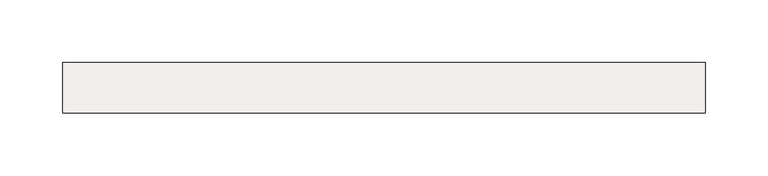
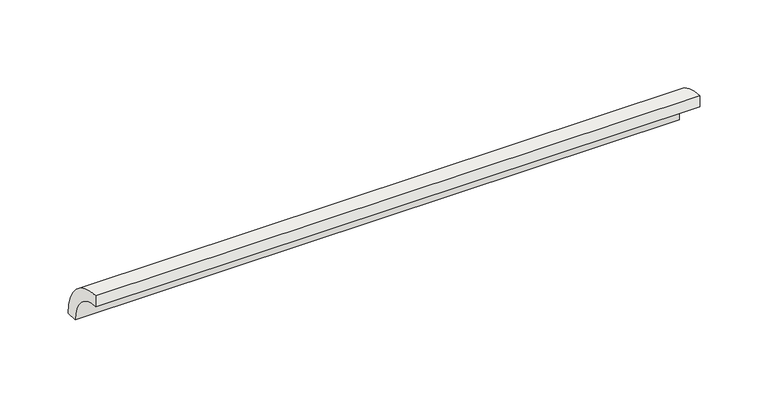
"""IFC4 building model written with IfcOpenShell, lengths in millimetres: slab geometry, ROSA GRES_183 : Pieza 183_Tresor_Java_Anti-Slip."""

from ifc_helpers import new_model, si_unit, point, frame, frame_2d, origin, origin_2d, place, context, project, spatial, polyline, circle_curve, trimmed, segment, composite_curve, outline, extrude, source, transform, mapped, element, save


def slab_8b9676be(model_context):
    return source(origin(), model_context, "Body", "SweptSolid", [
        extrude(outline(composite_curve([segment(trimmed(circle_curve(origin_2d(), 40.0), [point((0.0, 40.0))], [point((40.0, 0.0))], False, "CARTESIAN"), True, "CONTINUOUS"), segment(polyline([(40.0, 0.0), (30.0265886, 0.0)]), True, "CONTINUOUS"), segment(trimmed(circle_curve(frame_2d((0.0044453, 0.0044453)), 30.0221435), [point((30.0265886, 0.0))], [point((0.0, 30.0265886))], True, "CARTESIAN"), True, "CONTINUOUS"), segment(polyline([(0.0, 30.0265886), (0.0, 40.0)]), True, "CONTINUOUS")], self_intersect=False)), frame((0.0, 0.0, 0.0), z_axis=(1.0, 0.0, 0.0), x_axis=(0.0, 1.0, 0.0)), (0.0, 0.0, 1.0), 509.9734114),
    ])


if __name__ == "__main__":
    model = new_model("IFC4")
    model_context = context("Model", 3, world=origin())
    ifc_project = project(units=[si_unit("LENGTHUNIT", "METRE", prefix="MILLI")], contexts=[model_context])
    site = spatial("IfcSite", under=ifc_project)
    building = spatial("IfcBuilding", under=site)
    placement = place(None, origin())
    slab_shape = slab_8b9676be(model_context)
    element("IfcSlab", 1, ObjectType="ROSA GRES_183 : Pieza 183_Tresor_Java_Anti-Slip", at=placement, inside=building, context=model_context, shape_type="MappedRepresentation", body=[
        mapped(slab_shape, transform((0.0, 0.0, 0.0), x_axis=(1.0, 0.0, 0.0), y_axis=(0.0, 1.0, 0.0), z_axis=(0.0, 0.0, 1.0))),
    ])
    save(model, "model.ifc")
